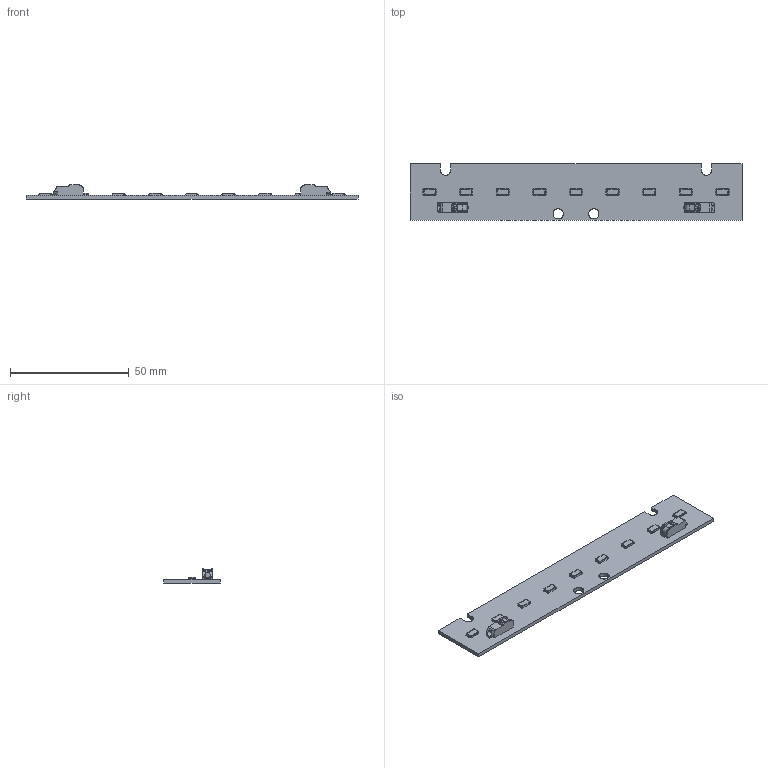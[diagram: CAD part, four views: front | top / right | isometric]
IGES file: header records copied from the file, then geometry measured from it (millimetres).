
Start section: SolidWorks IGES file using analytic representation for surfaces
Global section: file name: C:\Users\vuorinen_kari\Desktop\prj\LED_kosketussuojaus\led_module LP142.IGS; native system: SolidWorks 2014; preprocessor: SolidWorks 2014; author: vuorinen_kari; date: 171020.112920; units: millimetre
Bounding box: 140 x 24 x 5.95 mm (x, y, z)
Surface area: 8556.9 mm2 (no closed solid volume)
Topology: 0 solids, 0 shells, 738 faces, 4962 edges, 4962 vertices
Faces by surface type: bspline 566, revolution 172
